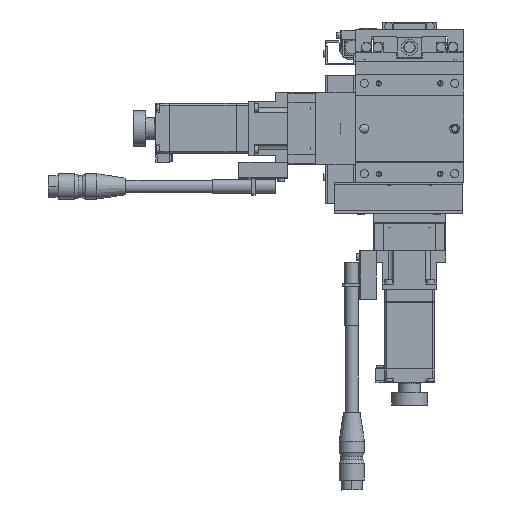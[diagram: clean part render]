
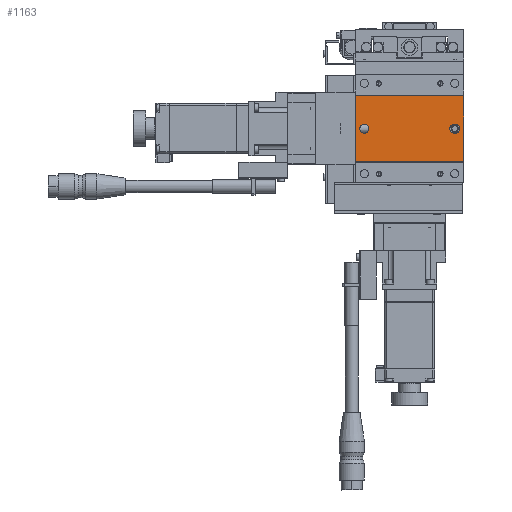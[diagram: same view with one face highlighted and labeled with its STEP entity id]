
A CAD part, front view. The second image highlights one B-rep face of the part: STEP entity #1163.
In plain terms, the highlighted planar face has unit normal (0, -1, 0).
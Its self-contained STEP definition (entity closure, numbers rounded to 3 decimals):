
#1163=ADVANCED_FACE('',(#3677,#3678,#3679),#3680,.F.);
#3677=FACE_BOUND('',#8550,.T.);
#3678=FACE_OUTER_BOUND('',#8551,.T.);
#3679=FACE_BOUND('',#8552,.T.);
#3680=PLANE('',#8553);
#8550=EDGE_LOOP('',(#14703,#14704,#14705,#14706));
#8551=EDGE_LOOP('',(#14707,#14708,#14709,#14710));
#8552=EDGE_LOOP('',(#14711,#14712,#14713));
#8553=AXIS2_PLACEMENT_3D('',#14714,#14715,#14716);
#14703=ORIENTED_EDGE('',*,*,#31707,.F.);
#14704=ORIENTED_EDGE('',*,*,#31708,.F.);
#14705=ORIENTED_EDGE('',*,*,#31709,.F.);
#14706=ORIENTED_EDGE('',*,*,#31710,.F.);
#14707=ORIENTED_EDGE('',*,*,#31692,.T.);
#14708=ORIENTED_EDGE('',*,*,#31711,.F.);
#14709=ORIENTED_EDGE('',*,*,#31712,.F.);
#14710=ORIENTED_EDGE('',*,*,#31713,.T.);
#14711=ORIENTED_EDGE('',*,*,#31597,.F.);
#14712=ORIENTED_EDGE('',*,*,#31596,.F.);
#14713=ORIENTED_EDGE('',*,*,#31714,.F.);
#14714=CARTESIAN_POINT('',(-30.,0.35,-18.15));
#14715=DIRECTION('',(0.,1.0,0.));
#14716=DIRECTION('',(-1.0,0.,0.));
#31596=EDGE_CURVE('',#37516,#37518,#37519,.F.);
#31597=EDGE_CURVE('',#37518,#37512,#37520,.F.);
#31692=EDGE_CURVE('',#37697,#37695,#37698,.T.);
#31707=EDGE_CURVE('',#37725,#37726,#37727,.F.);
#31708=EDGE_CURVE('',#37728,#37725,#37729,.T.);
#31709=EDGE_CURVE('',#37730,#37728,#37731,.F.);
#31710=EDGE_CURVE('',#37726,#37730,#37732,.T.);
#31711=EDGE_CURVE('',#37733,#37695,#37734,.T.);
#31712=EDGE_CURVE('',#37735,#37733,#37736,.T.);
#31713=EDGE_CURVE('',#37735,#37697,#37737,.T.);
#31714=EDGE_CURVE('',#37512,#37516,#37738,.F.);
#37512=VERTEX_POINT('',#47029);
#37516=VERTEX_POINT('',#47034);
#37518=VERTEX_POINT('',#47037);
#37519=CIRCLE('',#47038,2.5);
#37520=CIRCLE('',#47039,2.5);
#37695=VERTEX_POINT('',#47269);
#37697=VERTEX_POINT('',#47272);
#37698=LINE('',#47273,#47274);
#37725=VERTEX_POINT('',#47315);
#37726=VERTEX_POINT('',#47316);
#37727=CIRCLE('',#47317,2.5);
#37728=VERTEX_POINT('',#47318);
#37729=LINE('',#47319,#47320);
#37730=VERTEX_POINT('',#47321);
#37731=CIRCLE('',#47322,2.5);
#37732=LINE('',#47323,#47324);
#37733=VERTEX_POINT('',#47325);
#37734=LINE('',#47326,#47327);
#37735=VERTEX_POINT('',#47328);
#37736=LINE('',#47329,#47330);
#37737=LINE('',#47331,#47332);
#37738=CIRCLE('',#47333,2.5);
#47029=CARTESIAN_POINT('',(-22.5,0.35,0.));
#47034=CARTESIAN_POINT('',(-27.5,0.35,0.));
#47037=CARTESIAN_POINT('',(-25.,0.35,-2.5));
#47038=AXIS2_PLACEMENT_3D('',#60612,#60613,#60614);
#47039=AXIS2_PLACEMENT_3D('',#60615,#60616,#60617);
#47269=CARTESIAN_POINT('',(30.,0.35,18.15));
#47272=CARTESIAN_POINT('',(30.,0.35,-18.15));
#47273=CARTESIAN_POINT('',(30.,0.35,-18.15));
#47274=VECTOR('',#60788,1000.0);
#47315=CARTESIAN_POINT('',(25.25,0.35,-2.5));
#47316=CARTESIAN_POINT('',(25.25,0.35,2.5));
#47317=AXIS2_PLACEMENT_3D('',#60803,#60804,#60805);
#47318=CARTESIAN_POINT('',(24.75,0.35,-2.5));
#47319=CARTESIAN_POINT('',(-30.,0.35,-2.5));
#47320=VECTOR('',#60806,1000.0);
#47321=CARTESIAN_POINT('',(24.75,0.35,2.5));
#47322=AXIS2_PLACEMENT_3D('',#60807,#60808,#60809);
#47323=CARTESIAN_POINT('',(-30.,0.35,2.5));
#47324=VECTOR('',#60810,1000.0);
#47325=CARTESIAN_POINT('',(-30.,0.35,18.15));
#47326=CARTESIAN_POINT('',(-30.,0.35,18.15));
#47327=VECTOR('',#60811,1000.0);
#47328=CARTESIAN_POINT('',(-30.,0.35,-18.15));
#47329=CARTESIAN_POINT('',(-30.,0.35,-18.15));
#47330=VECTOR('',#60812,1000.0);
#47331=CARTESIAN_POINT('',(-30.,0.35,-18.15));
#47332=VECTOR('',#60813,1000.0);
#47333=AXIS2_PLACEMENT_3D('',#60814,#60815,#60816);
#60612=CARTESIAN_POINT('',(-25.0,0.35,0.));
#60613=DIRECTION('',(0.,1.0,0.));
#60614=DIRECTION('',(0.,0.,-1.0));
#60615=CARTESIAN_POINT('',(-25.0,0.35,0.));
#60616=DIRECTION('',(0.,1.0,0.));
#60617=DIRECTION('',(0.,0.,-1.0));
#60788=DIRECTION('',(0.,0.,1.0));
#60803=CARTESIAN_POINT('',(25.25,0.35,0.));
#60804=DIRECTION('',(0.,1.0,0.));
#60805=DIRECTION('',(0.,0.,-1.0));
#60806=DIRECTION('',(1.0,0.,0.));
#60807=CARTESIAN_POINT('',(24.75,0.35,0.));
#60808=DIRECTION('',(0.,1.0,0.));
#60809=DIRECTION('',(0.,0.,-1.0));
#60810=DIRECTION('',(-1.0,0.,0.));
#60811=DIRECTION('',(1.0,0.,0.));
#60812=DIRECTION('',(0.,0.,1.0));
#60813=DIRECTION('',(1.0,0.,0.));
#60814=CARTESIAN_POINT('',(-25.0,0.35,0.));
#60815=DIRECTION('',(0.,1.0,0.));
#60816=DIRECTION('',(0.,0.,-1.0));
